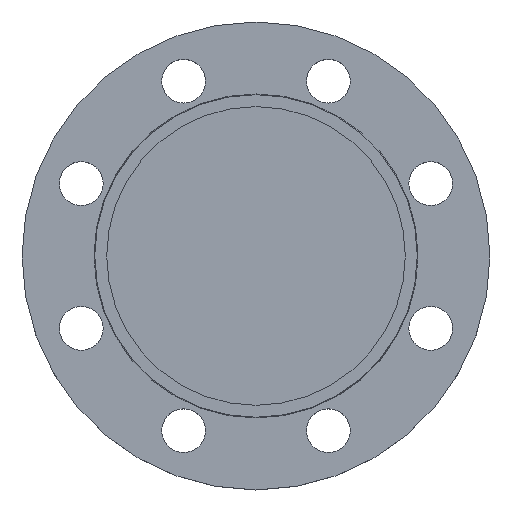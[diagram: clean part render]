
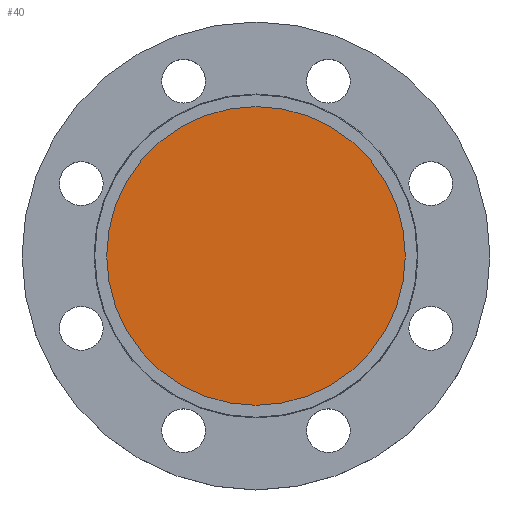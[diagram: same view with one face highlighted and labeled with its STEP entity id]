
A CAD part, top view. The second image highlights one B-rep face of the part: STEP entity #40.
In plain terms, the highlighted planar face has unit normal (0, 0, 1).
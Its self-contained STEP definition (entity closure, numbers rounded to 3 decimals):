
#40 = ADVANCED_FACE ( 'NONE', ( #261 ), #597, .T. ) ;
#41 = ORIENTED_EDGE ( 'NONE', *, *, #617, .F. ) ;
#172 = DIRECTION ( 'NONE',  ( 0., 0., 1. ) ) ;
#184 = CARTESIAN_POINT ( 'NONE',  ( 0., 0., -4.5 ) ) ;
#256 = CARTESIAN_POINT ( 'NONE',  ( 75., 0., -4.5 ) ) ;
#261 = FACE_OUTER_BOUND ( 'NONE', #942, .T. ) ;
#290 = AXIS2_PLACEMENT_3D ( 'NONE', #184, #515, #834 ) ;
#319 = AXIS2_PLACEMENT_3D ( 'NONE', #1023, #338, #680 ) ;
#338 = DIRECTION ( 'NONE',  ( 0., 0., -1. ) ) ;
#463 = VERTEX_POINT ( 'NONE', #256 ) ;
#505 = DIRECTION ( 'NONE',  ( 1., 0., 0. ) ) ;
#515 = DIRECTION ( 'NONE',  ( 0., 0., -1. ) ) ;
#551 = CIRCLE ( 'NONE', #319, 75. ) ;
#584 = CIRCLE ( 'NONE', #290, 75. ) ;
#597 = PLANE ( 'NONE',  #644 ) ;
#617 = EDGE_CURVE ( 'NONE', #463, #863, #584, .T. ) ;
#644 = AXIS2_PLACEMENT_3D ( 'NONE', #893, #172, #505 ) ;
#680 = DIRECTION ( 'NONE',  ( -1., 0., 0. ) ) ;
#749 = CARTESIAN_POINT ( 'NONE',  ( -75., 0., -4.5 ) ) ;
#834 = DIRECTION ( 'NONE',  ( -1., 0., 0. ) ) ;
#863 = VERTEX_POINT ( 'NONE', #749 ) ;
#870 = EDGE_CURVE ( 'NONE', #863, #463, #551, .T. ) ;
#893 = CARTESIAN_POINT ( 'NONE',  ( 75., 0., -4.5 ) ) ;
#942 = EDGE_LOOP ( 'NONE', ( #1005, #41 ) ) ;
#1005 = ORIENTED_EDGE ( 'NONE', *, *, #870, .F. ) ;
#1023 = CARTESIAN_POINT ( 'NONE',  ( 0., 0., -4.5 ) ) ;
